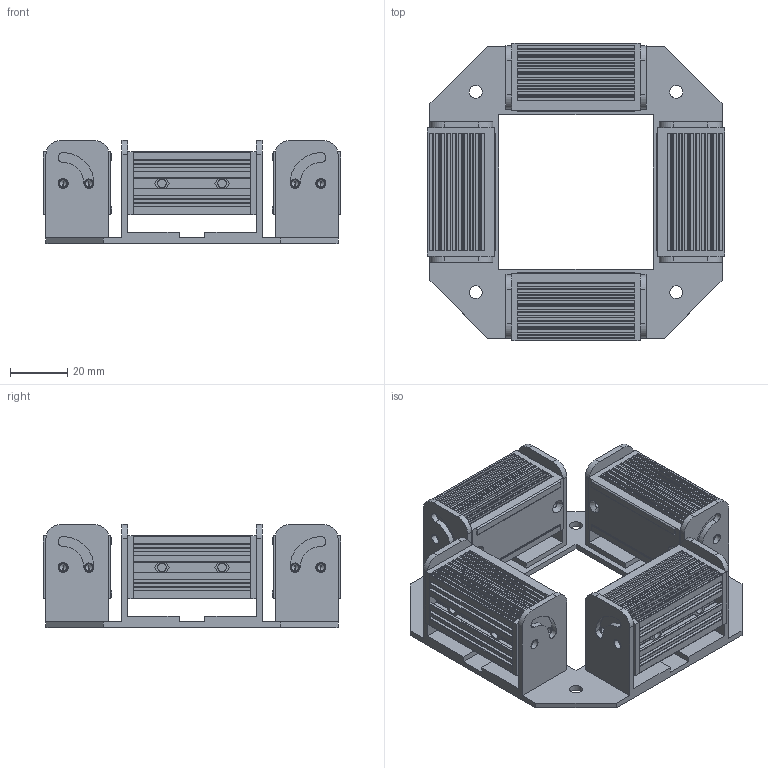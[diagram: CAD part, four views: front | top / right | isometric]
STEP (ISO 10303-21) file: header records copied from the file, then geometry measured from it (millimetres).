
FILE_DESCRIPTION((''),'2;1');
FILE_NAME('MSL-102-102_ASM','2020-03-26T',('ASUS'),(''),'PRO/ENGINEER BY PARAMETRIC TECHNOLOGY CORPORATION, 2008380','PRO/ENGINEER BY PARAMETRIC TECHNOLOGY CORPORATION, 2008380','');
FILE_SCHEMA(('CONFIG_CONTROL_DESIGN'));
Length unit declared in the file: millimetre
Products named in the file (3): PRT0002; PRT0003; MSL-102-102_ASM
Assembly tree (5 placements, depth 2):
  MSL-102-102_ASM
    PRT0002
    PRT0003  x4
Bounding box: 104.05 x 104.05 x 36 mm (x, y, z)
Volume: 113638 mm3; surface area: 64355.2 mm2
Topology: 5 solids, 21 shells, 1222 faces, 3308 edges, 2200 vertices
Faces by surface type: plane 726, cylinder 416, cone 80
Entity records: 13303 total; most frequent: CARTESIAN_POINT 2466, DIRECTION 2256, ORIENTED_EDGE 2216, EDGE_CURVE 1116, VECTOR 760, LINE 760, AXIS2_PLACEMENT_3D 748, VERTEX_POINT 748
